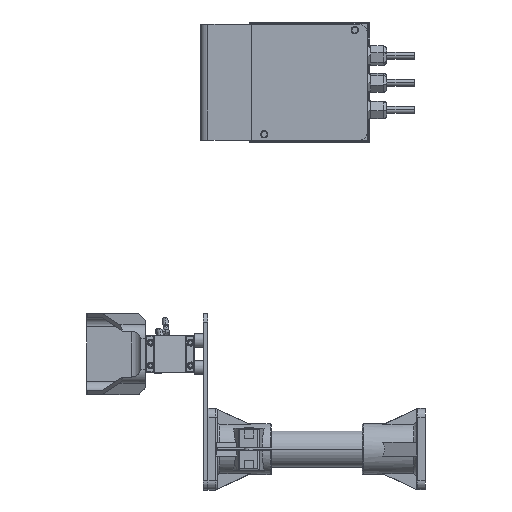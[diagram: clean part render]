
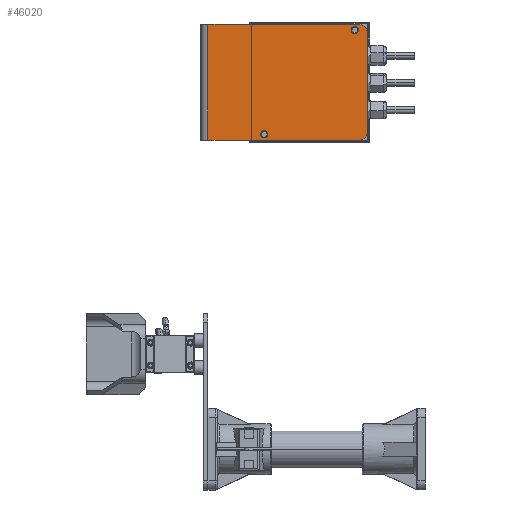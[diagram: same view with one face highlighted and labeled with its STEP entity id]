
A CAD part, left-side view. The second image highlights one B-rep face of the part: STEP entity #46020.
In plain terms, the highlighted planar face has unit normal (-1, 0, 0) as drawn and (0, 0, -1) by its records, which use the part's own axes.
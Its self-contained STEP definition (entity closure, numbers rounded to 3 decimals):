
#194 = DIRECTION ( 'NONE',  ( 0., 0., 1. ) ) ;
#387 = CARTESIAN_POINT ( 'NONE',  ( -54., -82., -3. ) ) ;
#1034 = VERTEX_POINT ( 'NONE', #15740 ) ;
#1216 = CARTESIAN_POINT ( 'NONE',  ( 54., -92., -3. ) ) ;
#1302 = EDGE_CURVE ( 'NONE', #38492, #33432, #16255, .T. ) ;
#1448 = AXIS2_PLACEMENT_3D ( 'NONE', #41992, #46309, #38799 ) ;
#2212 = VERTEX_POINT ( 'NONE', #12023 ) ;
#2697 = CIRCLE ( 'NONE', #32783, 10. ) ;
#3695 = CARTESIAN_POINT ( 'NONE',  ( -57.5, -78., -3. ) ) ;
#4425 = DIRECTION ( 'NONE',  ( 1., 0., 0. ) ) ;
#4532 = CIRCLE ( 'NONE', #17402, 10. ) ;
#5128 = CARTESIAN_POINT ( 'NONE',  ( 54., -82., -3. ) ) ;
#5419 = ORIENTED_EDGE ( 'NONE', *, *, #38868, .F. ) ;
#5665 = CARTESIAN_POINT ( 'NONE',  ( 64., 84., -3. ) ) ;
#5701 = VECTOR ( 'NONE', #12811, 1000. ) ;
#6213 = ORIENTED_EDGE ( 'NONE', *, *, #6362, .T. ) ;
#6362 = EDGE_CURVE ( 'NONE', #1034, #11673, #4532, .T. ) ;
#7701 = AXIS2_PLACEMENT_3D ( 'NONE', #22435, #42361, #34287 ) ;
#8107 = DIRECTION ( 'NONE',  ( 1., 0., 0. ) ) ;
#9996 = VERTEX_POINT ( 'NONE', #34043 ) ;
#10305 = PLANE ( 'NONE',  #37196 ) ;
#11153 = LINE ( 'NONE', #18634, #40716 ) ;
#11673 = VERTEX_POINT ( 'NONE', #45168 ) ;
#12023 = CARTESIAN_POINT ( 'NONE',  ( -53.5, -78., -3. ) ) ;
#12521 = CARTESIAN_POINT ( 'NONE',  ( 61.5, 22., -3. ) ) ;
#12811 = DIRECTION ( 'NONE',  ( 1., 0., 0. ) ) ;
#13307 = EDGE_LOOP ( 'NONE', ( #43689, #29727 ) ) ;
#13489 = DIRECTION ( 'NONE',  ( 1., 0., 0. ) ) ;
#14036 = EDGE_CURVE ( 'NONE', #9996, #22354, #2697, .T. ) ;
#14114 = CARTESIAN_POINT ( 'NONE',  ( -64., 84., -3. ) ) ;
#15109 = DIRECTION ( 'NONE',  ( 0., 0., 1. ) ) ;
#15346 = VECTOR ( 'NONE', #44084, 1000. ) ;
#15740 = CARTESIAN_POINT ( 'NONE',  ( -54., -92., -3. ) ) ;
#16255 = CIRCLE ( 'NONE', #7701, 4. ) ;
#16389 = VERTEX_POINT ( 'NONE', #34750 ) ;
#17402 = AXIS2_PLACEMENT_3D ( 'NONE', #387, #24327, #4425 ) ;
#18634 = CARTESIAN_POINT ( 'NONE',  ( -64., 92., -3. ) ) ;
#18736 = CARTESIAN_POINT ( 'NONE',  ( 57.5, 22., -3. ) ) ;
#19384 = FACE_BOUND ( 'NONE', #29796, .T. ) ;
#22354 = VERTEX_POINT ( 'NONE', #1216 ) ;
#22435 = CARTESIAN_POINT ( 'NONE',  ( 57.5, 22., -3. ) ) ;
#22638 = LINE ( 'NONE', #42828, #5701 ) ;
#22952 = DIRECTION ( 'NONE',  ( 0., -1., 0. ) ) ;
#23060 = DIRECTION ( 'NONE',  ( 0., 0., 1. ) ) ;
#23167 = VERTEX_POINT ( 'NONE', #14114 ) ;
#23525 = VERTEX_POINT ( 'NONE', #5665 ) ;
#23866 = CARTESIAN_POINT ( 'NONE',  ( 53.5, 22., -3. ) ) ;
#24327 = DIRECTION ( 'NONE',  ( 0., 0., -1. ) ) ;
#24620 = CIRCLE ( 'NONE', #1448, 4. ) ;
#25119 = EDGE_LOOP ( 'NONE', ( #5419, #6213, #39644, #38943, #48775, #44788 ) ) ;
#25840 = ORIENTED_EDGE ( 'NONE', *, *, #27104, .T. ) ;
#27104 = EDGE_CURVE ( 'NONE', #33432, #38492, #45295, .T. ) ;
#28016 = EDGE_CURVE ( 'NONE', #2212, #16389, #24620, .T. ) ;
#28125 = DIRECTION ( 'NONE',  ( 1., 0., 0. ) ) ;
#29727 = ORIENTED_EDGE ( 'NONE', *, *, #41414, .T. ) ;
#29796 = EDGE_LOOP ( 'NONE', ( #25840, #41107 ) ) ;
#32783 = AXIS2_PLACEMENT_3D ( 'NONE', #5128, #50356, #13489 ) ;
#33432 = VERTEX_POINT ( 'NONE', #12521 ) ;
#33879 = EDGE_CURVE ( 'NONE', #9996, #23525, #36020, .T. ) ;
#34043 = CARTESIAN_POINT ( 'NONE',  ( 64., -82., -3. ) ) ;
#34287 = DIRECTION ( 'NONE',  ( 1., 0., 0. ) ) ;
#34750 = CARTESIAN_POINT ( 'NONE',  ( -61.5, -78., -3. ) ) ;
#35341 = DIRECTION ( 'NONE',  ( 1., 0., 0. ) ) ;
#35768 = DIRECTION ( 'NONE',  ( 1., 0., 0. ) ) ;
#35879 = FACE_OUTER_BOUND ( 'NONE', #25119, .T. ) ;
#36020 = LINE ( 'NONE', #52378, #15346 ) ;
#36930 = LINE ( 'NONE', #40143, #49470 ) ;
#37196 = AXIS2_PLACEMENT_3D ( 'NONE', #39115, #15109, #35341 ) ;
#38492 = VERTEX_POINT ( 'NONE', #23866 ) ;
#38799 = DIRECTION ( 'NONE',  ( 1., 0., 0. ) ) ;
#38868 = EDGE_CURVE ( 'NONE', #1034, #22354, #22638, .T. ) ;
#38943 = ORIENTED_EDGE ( 'NONE', *, *, #49339, .T. ) ;
#39115 = CARTESIAN_POINT ( 'NONE',  ( 0., 0., -3. ) ) ;
#39374 = FACE_BOUND ( 'NONE', #13307, .T. ) ;
#39644 = ORIENTED_EDGE ( 'NONE', *, *, #47985, .F. ) ;
#40143 = CARTESIAN_POINT ( 'NONE',  ( -64., 84., -3. ) ) ;
#40716 = VECTOR ( 'NONE', #22952, 1000. ) ;
#41107 = ORIENTED_EDGE ( 'NONE', *, *, #1302, .T. ) ;
#41414 = EDGE_CURVE ( 'NONE', #16389, #2212, #47296, .T. ) ;
#41992 = CARTESIAN_POINT ( 'NONE',  ( -57.5, -78., -3. ) ) ;
#42361 = DIRECTION ( 'NONE',  ( 0., 0., 1. ) ) ;
#42828 = CARTESIAN_POINT ( 'NONE',  ( -64., -92., -3. ) ) ;
#42982 = AXIS2_PLACEMENT_3D ( 'NONE', #3695, #194, #28125 ) ;
#43689 = ORIENTED_EDGE ( 'NONE', *, *, #28016, .T. ) ;
#44084 = DIRECTION ( 'NONE',  ( 0., 1., 0. ) ) ;
#44788 = ORIENTED_EDGE ( 'NONE', *, *, #14036, .T. ) ;
#45168 = CARTESIAN_POINT ( 'NONE',  ( -64., -82., -3. ) ) ;
#45295 = CIRCLE ( 'NONE', #53040, 4. ) ;
#46020 = ADVANCED_FACE ( 'NONE', ( #19384, #39374, #35879 ), #10305, .F. ) ;
#46309 = DIRECTION ( 'NONE',  ( 0., 0., 1. ) ) ;
#47296 = CIRCLE ( 'NONE', #42982, 4. ) ;
#47985 = EDGE_CURVE ( 'NONE', #23167, #11673, #11153, .T. ) ;
#48775 = ORIENTED_EDGE ( 'NONE', *, *, #33879, .F. ) ;
#49339 = EDGE_CURVE ( 'NONE', #23167, #23525, #36930, .T. ) ;
#49470 = VECTOR ( 'NONE', #8107, 1000. ) ;
#50356 = DIRECTION ( 'NONE',  ( 0., 0., -1. ) ) ;
#52378 = CARTESIAN_POINT ( 'NONE',  ( 64., 92., -3. ) ) ;
#53040 = AXIS2_PLACEMENT_3D ( 'NONE', #18736, #23060, #35768 ) ;
